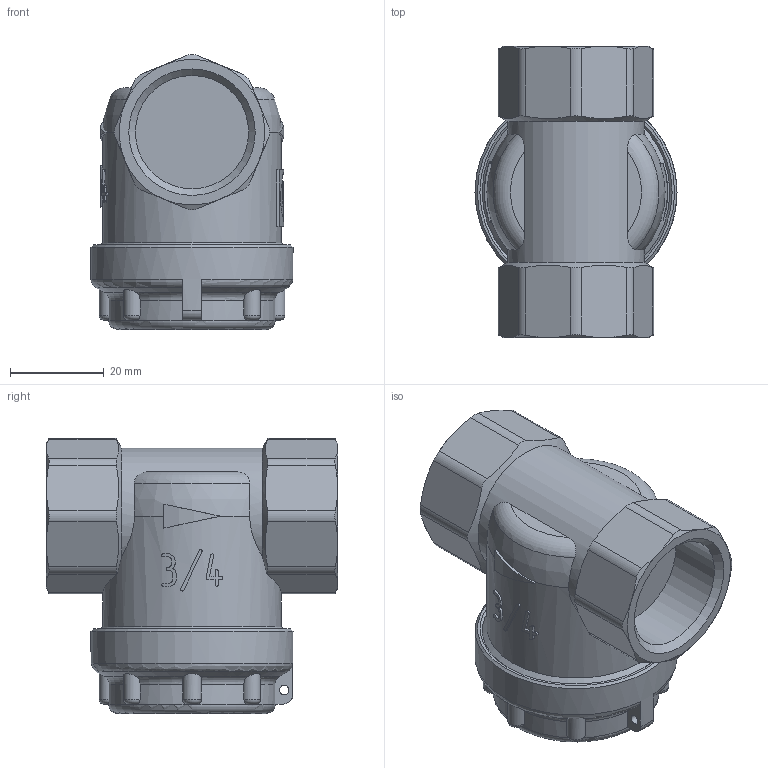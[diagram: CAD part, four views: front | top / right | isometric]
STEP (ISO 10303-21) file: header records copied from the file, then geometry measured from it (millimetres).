
FILE_DESCRIPTION(('STEP AP203'), '1');
FILE_NAME('VT.388.N.05', '2024-06-18T13:42:24', ('User'), ('Vesta'), 'C3D Converter', 'C3D Toolkit', '');
FILE_SCHEMA(('CONFIG_CONTROL_DESIGN'));
Length unit declared in the file: millimetre
Products named in the file (1): ВР.061146.012.000 СБ
Bounding box: 43 x 62 x 58.53 mm (x, y, z)
Volume: 72572.1 mm3; surface area: 14268.5 mm2
Topology: 1 solids, 3 shells, 234 faces, 622 edges, 402 vertices
Faces by surface type: plane 85, extrusion 53, cylinder 50, cone 24, torus 20, sphere 2
Full cylindrical faces by diameter (mm): 2 x1, 24.118 x2, 38 x1, 43 x1
Entity records: 12856 total; most frequent: CARTESIAN_POINT 7550, ORIENTED_EDGE 1220, DIRECTION 874, EDGE_CURVE 610, VERTEX_POINT 402, AXIS2_PLACEMENT_3D 315, B_SPLINE_CURVE_WITH_KNOTS 298, EDGE_LOOP 256
